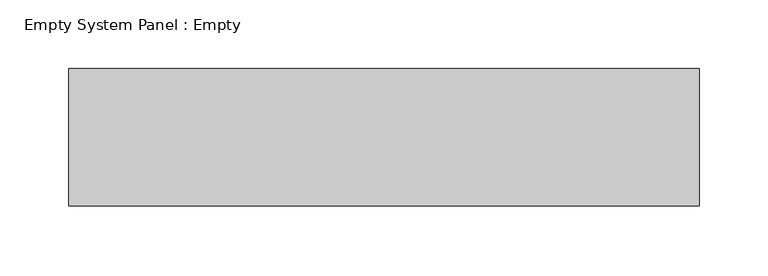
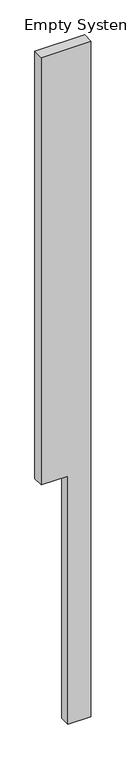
"""IFC4 building model written with IfcOpenShell, lengths in millimetres: plate geometry, Empty System Panel : Empty."""

from ifc_helpers import new_model, si_unit, frame, origin, place, context, project, spatial, polyline, outline, extrude, source, transform, mapped, element, save


def empty_system_panel_empty_e3afee98(model_context):
    return source(origin(), model_context, "Body", "SweptSolid", [
        extrude(outline(polyline([(0.0, 18.3019204), (0.0, 229.6046705), (6608.109795, 229.6046705), (6608.109795, -229.6046705), (2426.8498099, -229.6046705), (2426.8498099, 18.3019204), (0.0, 18.3019204)])), frame((0.0, -50.0, 0.0), z_axis=(0.0, 1.0, 0.0), x_axis=(0.0, 0.0, 1.0)), (0.0, 0.0, 1.0), 100.0),
    ])


if __name__ == "__main__":
    model = new_model("IFC4")
    model_context = context("Model", 3, world=origin())
    ifc_project = project(units=[si_unit("LENGTHUNIT", "METRE", prefix="MILLI")], contexts=[model_context])
    site = spatial("IfcSite", under=ifc_project)
    building = spatial("IfcBuilding", under=site)
    placement = place(None, origin())
    empty_system_panel_empty_shape = empty_system_panel_empty_e3afee98(model_context)
    element("IfcPlate", 1, ObjectType="Empty System Panel : Empty", at=placement, inside=building, context=model_context, shape_type="MappedRepresentation", body=[
        mapped(empty_system_panel_empty_shape, transform((0.0, 0.0, 0.0), x_axis=(1.0, 0.0, 0.0), y_axis=(0.0, 1.0, 0.0), z_axis=(0.0, 0.0, 1.0))),
    ])
    save(model, "model.ifc")
